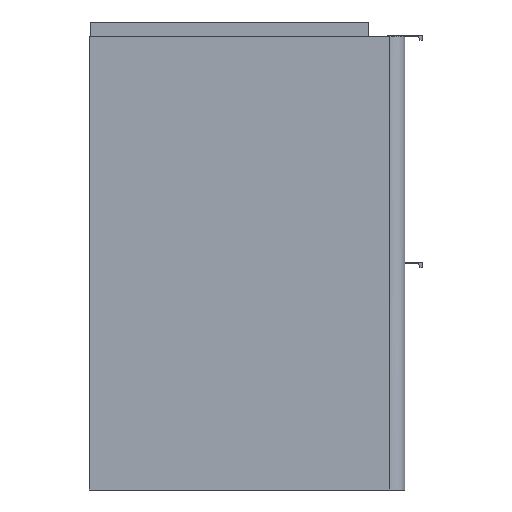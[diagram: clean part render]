
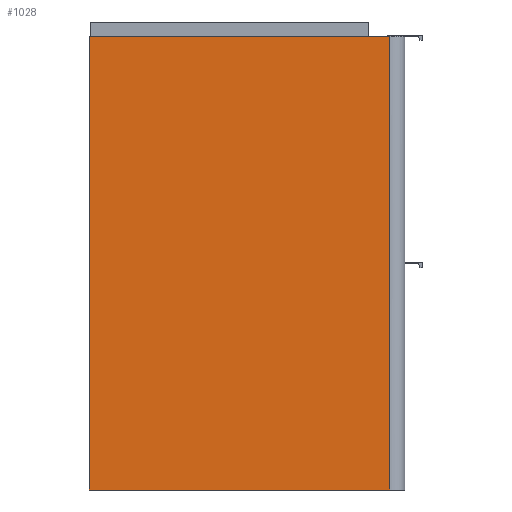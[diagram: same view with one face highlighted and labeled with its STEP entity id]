
A CAD part, left-side view. The second image highlights one B-rep face of the part: STEP entity #1028.
In plain terms, the highlighted planar face has unit normal (-1, 0, 0).
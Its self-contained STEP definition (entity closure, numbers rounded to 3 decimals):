
#1028=ADVANCED_FACE('',(#1609),#10571,.T.);
#1609=FACE_OUTER_BOUND('',#2272,.T.);
#2272=EDGE_LOOP('',(#5543,#5544,#5545,#5546));
#5543=ORIENTED_EDGE('',*,*,#7262,.F.);
#5544=ORIENTED_EDGE('',*,*,#7269,.T.);
#5545=ORIENTED_EDGE('',*,*,#7270,.T.);
#5546=ORIENTED_EDGE('',*,*,#7265,.T.);
#7262=EDGE_CURVE('',#10111,#10112,#8938,.T.);
#7265=EDGE_CURVE('',#10114,#10112,#8940,.T.);
#7269=EDGE_CURVE('',#10111,#10117,#8944,.T.);
#7270=EDGE_CURVE('',#10117,#10114,#8945,.T.);
#8938=B_SPLINE_CURVE_WITH_KNOTS('',1,(#19534,#19535),.UNSPECIFIED.,.F.,
 .F.,(2,2),(0.,515.),.UNSPECIFIED.);
#8940=B_SPLINE_CURVE_WITH_KNOTS('',1,(#19541,#19542),.UNSPECIFIED.,.F.,
 .F.,(2,2),(-341.,0.),.UNSPECIFIED.);
#8944=B_SPLINE_CURVE_WITH_KNOTS('',1,(#19549,#19550),.UNSPECIFIED.,.F.,
 .F.,(2,2),(-341.,0.),.UNSPECIFIED.);
#8945=B_SPLINE_CURVE_WITH_KNOTS('',1,(#19551,#19552),.UNSPECIFIED.,.F.,
 .F.,(2,2),(-515.,0.),.UNSPECIFIED.);
#10111=VERTEX_POINT('',#19522);
#10112=VERTEX_POINT('',#19523);
#10114=VERTEX_POINT('',#19525);
#10117=VERTEX_POINT('',#19528);
#10571=PLANE('',#11669);
#11669=AXIS2_PLACEMENT_3D('',#19516,#12240,$);
#12240=DIRECTION('',(-1.,0.,0.));
#19516=CARTESIAN_POINT('',(-285.,213.22,-51.62));
#19522=CARTESIAN_POINT('',(-285.,-162.,515.));
#19523=CARTESIAN_POINT('',(-285.,-162.,0.));
#19525=CARTESIAN_POINT('',(-285.,179.,0.));
#19528=CARTESIAN_POINT('',(-285.,179.,515.));
#19534=CARTESIAN_POINT('',(-285.,-162.,515.));
#19535=CARTESIAN_POINT('',(-285.,-162.,0.));
#19541=CARTESIAN_POINT('',(-285.,179.,0.));
#19542=CARTESIAN_POINT('',(-285.,-162.,0.));
#19549=CARTESIAN_POINT('',(-285.,-162.,515.));
#19550=CARTESIAN_POINT('',(-285.,179.,515.));
#19551=CARTESIAN_POINT('',(-285.,179.,515.));
#19552=CARTESIAN_POINT('',(-285.,179.,0.));
